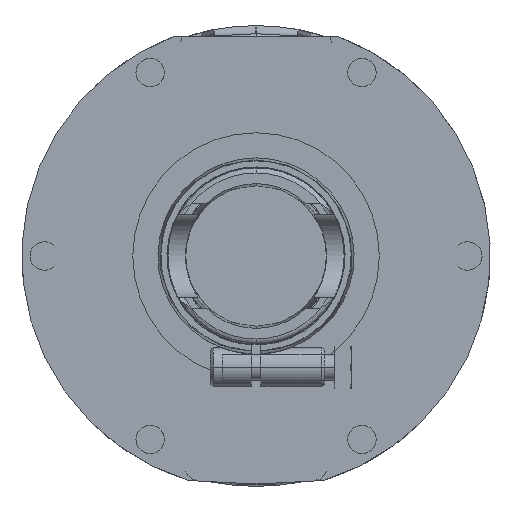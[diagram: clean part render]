
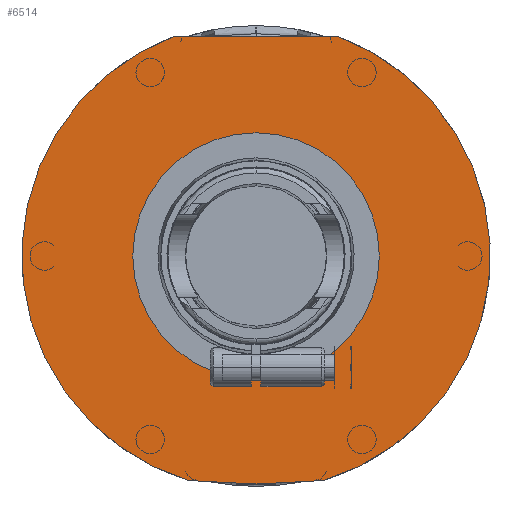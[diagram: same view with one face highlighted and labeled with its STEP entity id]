
A CAD part, front view. The second image highlights one B-rep face of the part: STEP entity #6514.
In plain terms, the highlighted planar face has unit normal (0, -1, 0).
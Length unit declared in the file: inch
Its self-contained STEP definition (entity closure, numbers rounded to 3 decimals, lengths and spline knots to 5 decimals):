
#3487=DIRECTION('',(-1.,0.,0.));
#3488=VECTOR('',#3487,1.96125);
#3489=CARTESIAN_POINT('',(0.98062,0.,2.66));
#3490=LINE('',#3489,#3488);
#3491=CARTESIAN_POINT('',(0.,0.,0.));
#3492=DIRECTION('',(0.,1.,0.));
#3493=DIRECTION('',(0.346,0.,0.938));
#3494=AXIS2_PLACEMENT_3D('',#3491,#3492,#3493);
#3496=CARTESIAN_POINT('',(0.80393,0.,-2.68733));
#3497=DIRECTION('',(0.,1.,0.));
#3498=DIRECTION('',(0.287,0.,-0.958));
#3499=AXIS2_PLACEMENT_3D('',#3496,#3497,#3498);
#3501=CARTESIAN_POINT('',(-0.80393,0.,-2.68733));
#3502=DIRECTION('',(0.,1.,0.));
#3503=DIRECTION('',(-0.052,0.,-0.999));
#3504=AXIS2_PLACEMENT_3D('',#3501,#3502,#3503);
#3506=CARTESIAN_POINT('',(0.,0.,0.));
#3507=DIRECTION('',(0.,1.,0.));
#3508=DIRECTION('',(-0.287,0.,-0.958));
#3509=AXIS2_PLACEMENT_3D('',#3506,#3507,#3508);
#4268=DIRECTION('',(0.999,0.,0.052));
#4269=VECTOR('',#4268,0.8066);
#4270=CARTESIAN_POINT('',(0.,0.,-2.7595));
#4271=LINE('',#4270,#4269);
#4342=DIRECTION('',(0.999,0.,-0.052));
#4343=VECTOR('',#4342,0.8066);
#4344=CARTESIAN_POINT('',(-0.8055,0.,-2.71729));
#4345=LINE('',#4344,#4343);
#5389=CARTESIAN_POINT('',(-0.98062,0.,2.66));
#5390=VERTEX_POINT('',#5389);
#5391=CARTESIAN_POINT('',(0.98062,0.,2.66));
#5392=VERTEX_POINT('',#5391);
#5413=CARTESIAN_POINT('',(-0.81253,0.,-2.71607));
#5414=VERTEX_POINT('',#5413);
#5415=CARTESIAN_POINT('',(0.81253,0.,-2.71607));
#5416=VERTEX_POINT('',#5415);
#5680=CARTESIAN_POINT('',(0.,0.,-2.7595));
#5681=CARTESIAN_POINT('',(0.8055,0.,-2.71729));
#5682=VERTEX_POINT('',#5680);
#5683=VERTEX_POINT('',#5681);
#5684=CARTESIAN_POINT('',(-0.8055,0.,-2.71729));
#5685=VERTEX_POINT('',#5684);
#6495=CARTESIAN_POINT('',(0.,0.,0.));
#6496=DIRECTION('',(0.,-1.,0.));
#6497=DIRECTION('',(0.,0.,1.));
#6498=AXIS2_PLACEMENT_3D('',#6495,#6496,#6497);
#6499=PLANE('',#6498);
#6501=ORIENTED_EDGE('',*,*,#6500,.F.);
#6502=ORIENTED_EDGE('',*,*,#5973,.T.);
#6504=ORIENTED_EDGE('',*,*,#6503,.T.);
#6506=ORIENTED_EDGE('',*,*,#6505,.F.);
#6508=ORIENTED_EDGE('',*,*,#6507,.F.);
#6510=ORIENTED_EDGE('',*,*,#6509,.T.);
#6511=ORIENTED_EDGE('',*,*,#5955,.T.);
#6512=EDGE_LOOP('',(#6501,#6502,#6504,#6506,#6508,#6510,#6511));
#6513=FACE_OUTER_BOUND('',#6512,.F.);
#6514=ADVANCED_FACE('',(#6513),#6499,.T.);
#3495=CIRCLE('',#3494,2.835);
#3500=CIRCLE('',#3499,0.03);
#3505=CIRCLE('',#3504,0.03);
#3510=CIRCLE('',#3509,2.835);
#5955=EDGE_CURVE('',#5414,#5390,#3510,.T.);
#5973=EDGE_CURVE('',#5392,#5416,#3495,.T.);
#6500=EDGE_CURVE('',#5392,#5390,#3490,.T.);
#6503=EDGE_CURVE('',#5416,#5683,#3500,.T.);
#6505=EDGE_CURVE('',#5682,#5683,#4271,.T.);
#6507=EDGE_CURVE('',#5685,#5682,#4345,.T.);
#6509=EDGE_CURVE('',#5685,#5414,#3505,.T.);
